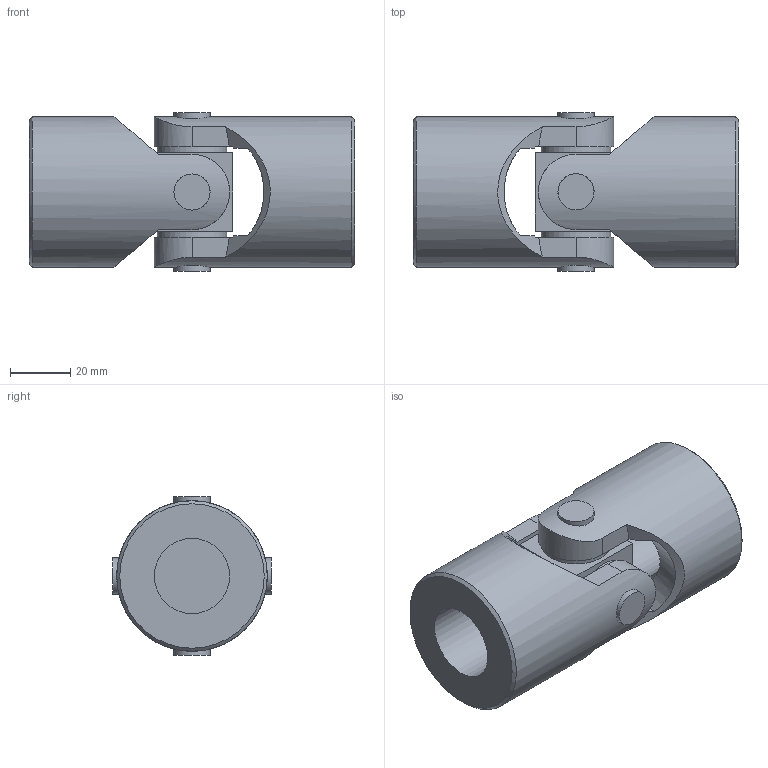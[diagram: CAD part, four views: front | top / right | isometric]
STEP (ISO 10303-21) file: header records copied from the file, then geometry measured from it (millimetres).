
FILE_DESCRIPTION(/* description */ (''),/* implementation_level */ '2;1');
FILE_NAME(/* name */ '\\SRV2016\societa\Stefano\Disegni 3D\0Catalogo 3D\13Singoli X\Ø50_5X_SX0S2500.stp',/* time_stamp */ '2023-05-12T16:14:51+02:00',/* author */ ('acquisti'),/* organization */ (''),/* preprocessor_version */ 'ST-DEVELOPER v15.6',/* originating_system */ 'Autodesk Inventor 2015',/* authorisation */ '');
FILE_SCHEMA (('AUTOMOTIVE_DESIGN { 1 0 10303 214 3 1 1 }'));
Length unit declared in the file: millimetre
Products named in the file (3): 5X SFE; 5X MOS; Ø50_5X_SX0S2500
Assembly tree (3 placements, depth 2):
  Ø50_5X_SX0S2500
    5X SFE
    5X MOS  x2
Bounding box: 108 x 52.76 x 52.76 mm (x, y, z)
Volume: 144484.5 mm3; surface area: 33700.3 mm2
Topology: 3 solids, 3 shells, 64 faces, 160 edges, 108 vertices
Faces by surface type: plane 32, cylinder 18, cone 12, torus 2
Full cylindrical faces by diameter (mm): 12 x4, 23 x4, 25 x2, 28 x2, 50 x2
Entity records: 1309 total; most frequent: CARTESIAN_POINT 436, DIRECTION 168, ORIENTED_EDGE 152, EDGE_CURVE 76, AXIS2_PLACEMENT_3D 72, EDGE_LOOP 58, VERTEX_POINT 58, FACE_OUTER_BOUND 39
